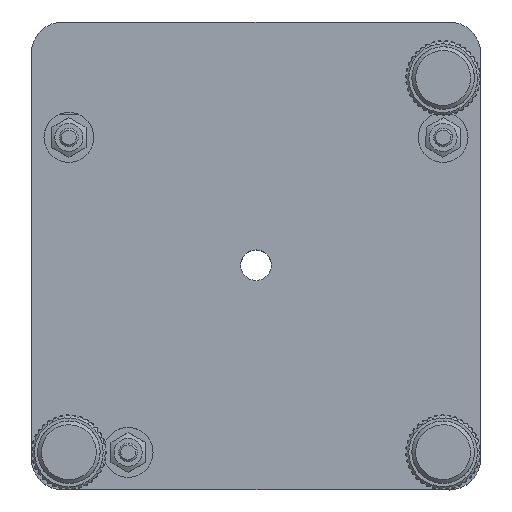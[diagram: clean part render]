
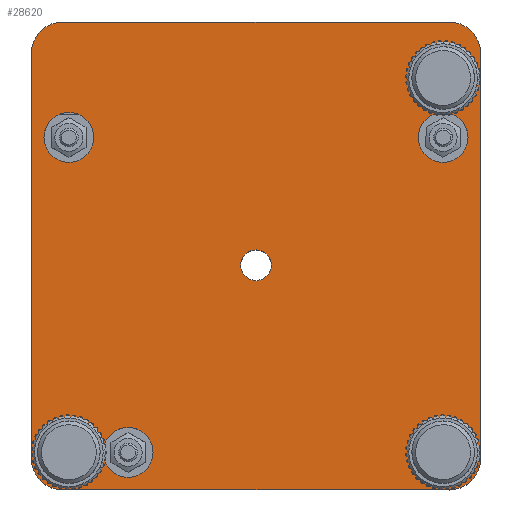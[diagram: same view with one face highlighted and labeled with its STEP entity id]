
A CAD part, top view. The second image highlights one B-rep face of the part: STEP entity #28620.
In plain terms, the highlighted planar face has unit normal (0, 0, 1).
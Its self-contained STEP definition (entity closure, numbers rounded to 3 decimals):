
#2389=LINE($,#50875,#4403);
#2391=LINE($,#50881,#4405);
#2397=LINE($,#50935,#4411);
#2400=LINE($,#50949,#4414);
#4403=VECTOR($,#39407,62.);
#4405=VECTOR($,#39411,62.);
#4411=VECTOR($,#39477,65.);
#4414=VECTOR($,#39494,65.);
#6119=PLANE($,#31582);
#6357=FACE_BOUND($,#9993,.T.);
#6358=FACE_BOUND($,#9994,.T.);
#6359=FACE_BOUND($,#9995,.T.);
#6360=FACE_BOUND($,#9996,.T.);
#6361=FACE_BOUND($,#9997,.T.);
#6362=FACE_BOUND($,#9998,.T.);
#9993=EDGE_LOOP($,(#26411));
#9994=EDGE_LOOP($,(#26412,#26413,#26414,#26415,#26416,#26417,#26418,#26419));
#9995=EDGE_LOOP($,(#26420,#26421));
#9996=EDGE_LOOP($,(#26422));
#9997=EDGE_LOOP($,(#26423,#26424));
#9998=EDGE_LOOP($,(#26425));
#10226=CIRCLE($,#28857,5.5);
#10855=CIRCLE($,#30262,5.5);
#11260=CIRCLE($,#31092,5.5);
#11405=CIRCLE($,#31546,2.459);
#11408=CIRCLE($,#31551,4.);
#11410=CIRCLE($,#31554,4.);
#11412=CIRCLE($,#31557,4.);
#11418=CIRCLE($,#31570,5.);
#11420=CIRCLE($,#31574,5.);
#11422=CIRCLE($,#31577,5.);
#11424=CIRCLE($,#31581,5.);
#11712=VERTEX_POINT($,#40372);
#12703=VERTEX_POINT($,#44332);
#13318=VERTEX_POINT($,#46668);
#14017=VERTEX_POINT($,#50869);
#14019=VERTEX_POINT($,#50873);
#14020=VERTEX_POINT($,#50877);
#14022=VERTEX_POINT($,#50880);
#14027=VERTEX_POINT($,#50892);
#14031=VERTEX_POINT($,#50904);
#14038=VERTEX_POINT($,#50927);
#14040=VERTEX_POINT($,#50932);
#14042=VERTEX_POINT($,#50942);
#14043=VERTEX_POINT($,#50946);
#14366=EDGE_CURVE($,#11712,#11712,#10226,.T.);
#16098=EDGE_CURVE($,#12703,#12703,#10855,.T.);
#17114=EDGE_CURVE($,#13318,#13318,#11260,.T.);
#18156=EDGE_CURVE($,#14019,#14017,#2389,.T.);
#18158=EDGE_CURVE($,#14020,#14022,#2391,.T.);
#18164=EDGE_CURVE($,#14027,#14027,#11405,.T.);
#18167=EDGE_CURVE($,#13318,#13318,#11408,.T.);
#18169=EDGE_CURVE($,#14031,#14031,#11410,.T.);
#18171=EDGE_CURVE($,#12703,#12703,#11412,.T.);
#18177=EDGE_CURVE($,#14022,#14038,#11418,.T.);
#18181=EDGE_CURVE($,#14038,#14040,#2397,.T.);
#18183=EDGE_CURVE($,#14040,#14019,#11420,.T.);
#18186=EDGE_CURVE($,#14042,#14020,#11422,.T.);
#18188=EDGE_CURVE($,#14043,#14042,#2400,.T.);
#18191=EDGE_CURVE($,#14017,#14043,#11424,.T.);
#26411=ORIENTED_EDGE($,*,*,#14366,.T.);
#26412=ORIENTED_EDGE($,*,*,#18191,.F.);
#26413=ORIENTED_EDGE($,*,*,#18156,.F.);
#26414=ORIENTED_EDGE($,*,*,#18183,.F.);
#26415=ORIENTED_EDGE($,*,*,#18181,.F.);
#26416=ORIENTED_EDGE($,*,*,#18177,.F.);
#26417=ORIENTED_EDGE($,*,*,#18158,.F.);
#26418=ORIENTED_EDGE($,*,*,#18186,.F.);
#26419=ORIENTED_EDGE($,*,*,#18188,.F.);
#26420=ORIENTED_EDGE($,*,*,#18171,.T.);
#26421=ORIENTED_EDGE($,*,*,#16098,.F.);
#26422=ORIENTED_EDGE($,*,*,#18169,.T.);
#26423=ORIENTED_EDGE($,*,*,#18167,.T.);
#26424=ORIENTED_EDGE($,*,*,#17114,.F.);
#26425=ORIENTED_EDGE($,*,*,#18164,.T.);
#28620=ADVANCED_FACE($,(#6357,#6358,#6359,#6360,#6361,#6362),#6119,.F.);
#28857=AXIS2_PLACEMENT_3D($,#40373,#32106,#32107);
#30262=AXIS2_PLACEMENT_3D($,#44333,#35802,#35803);
#31092=AXIS2_PLACEMENT_3D($,#46669,#37933,#37934);
#31546=AXIS2_PLACEMENT_3D($,#50893,#39422,#39423);
#31551=AXIS2_PLACEMENT_3D($,#50900,#39432,#39433);
#31554=AXIS2_PLACEMENT_3D($,#50905,#39438,#39439);
#31557=AXIS2_PLACEMENT_3D($,#50909,#39444,#39445);
#31570=AXIS2_PLACEMENT_3D($,#50928,#39470,#39471);
#31574=AXIS2_PLACEMENT_3D($,#50938,#39482,#39483);
#31577=AXIS2_PLACEMENT_3D($,#50944,#39489,#39490);
#31581=AXIS2_PLACEMENT_3D($,#50953,#39500,#39501);
#31582=AXIS2_PLACEMENT_3D($,#50954,#39502,#39503);
#32106=DIRECTION('center_axis',(0.,0.,
-1.));
#32107=DIRECTION('ref_axis',(-0.799,-0.601,0.));
#35802=DIRECTION('center_axis',(0.,0.,
1.));
#35803=DIRECTION('ref_axis',(-0.622,-0.783,0.));
#37933=DIRECTION('center_axis',(0.,0.,
1.));
#37934=DIRECTION('ref_axis',(0.505,-0.863,0.));
#39407=DIRECTION($,(-1.,0.,0.));
#39411=DIRECTION($,(1.,0.,0.));
#39422=DIRECTION('center_axis',(0.,0.,
-1.));
#39423=DIRECTION('ref_axis',(0.,-1.,0.));
#39432=DIRECTION('center_axis',(0.,0.,
-1.));
#39433=DIRECTION('ref_axis',(0.,-1.,0.));
#39438=DIRECTION('center_axis',(0.,0.,
-1.));
#39439=DIRECTION('ref_axis',(0.,-1.,0.));
#39444=DIRECTION('center_axis',(0.,0.,
-1.));
#39445=DIRECTION('ref_axis',(0.,-1.,0.));
#39470=DIRECTION('center_axis',(0.,0.,
-1.));
#39471=DIRECTION('ref_axis',(0.707,0.707,0.));
#39477=DIRECTION($,(0.,-1.,0.));
#39482=DIRECTION('center_axis',(0.,0.,
-1.));
#39483=DIRECTION('ref_axis',(0.707,-0.707,0.));
#39489=DIRECTION('center_axis',(0.,0.,
-1.));
#39490=DIRECTION('ref_axis',(-0.707,0.707,0.));
#39494=DIRECTION($,(0.,1.,0.));
#39500=DIRECTION('center_axis',(0.,0.,
-1.));
#39501=DIRECTION('ref_axis',(-0.707,-0.707,0.));
#39502=DIRECTION('center_axis',(0.,0.,
-1.));
#39503=DIRECTION('ref_axis',(0.,-1.,0.));
#40372=CARTESIAN_POINT('',(73.395,9.307,9.));
#40373=CARTESIAN_POINT('Origin',(69.,6.,9.));
#44332=CARTESIAN_POINT('',(69.,60.5,9.));
#44333=CARTESIAN_POINT('Origin',(69.,66.,9.));
#46668=CARTESIAN_POINT('',(14.5,6.,9.));
#46669=CARTESIAN_POINT('Origin',(9.,6.,9.));
#50869=CARTESIAN_POINT('',(8.,0.,9.));
#50873=CARTESIAN_POINT('',(70.,0.,9.));
#50875=CARTESIAN_POINT($,(75.,0.,9.));
#50877=CARTESIAN_POINT('',(8.,75.,9.));
#50880=CARTESIAN_POINT('',(70.,75.,9.));
#50881=CARTESIAN_POINT($,(3.,75.,9.));
#50892=CARTESIAN_POINT('',(39.,38.459,9.));
#50893=CARTESIAN_POINT('Origin',(39.,36.,9.));
#50900=CARTESIAN_POINT('Origin',(18.5,6.,9.));
#50904=CARTESIAN_POINT('',(9.,60.5,9.));
#50905=CARTESIAN_POINT('Origin',(9.,56.5,9.));
#50909=CARTESIAN_POINT('Origin',(69.,56.5,9.));
#50927=CARTESIAN_POINT('',(75.,70.,9.));
#50928=CARTESIAN_POINT('Origin',(70.,70.,9.));
#50932=CARTESIAN_POINT('',(75.,5.,9.));
#50935=CARTESIAN_POINT($,(75.,75.,9.));
#50938=CARTESIAN_POINT('Origin',(70.,5.,9.));
#50942=CARTESIAN_POINT('',(3.,70.,9.));
#50944=CARTESIAN_POINT('Origin',(8.,70.,9.));
#50946=CARTESIAN_POINT('',(3.,5.,9.));
#50949=CARTESIAN_POINT($,(3.,0.,9.));
#50953=CARTESIAN_POINT('Origin',(8.,5.,9.));
#50954=CARTESIAN_POINT('Origin',(39.,37.5,9.));
